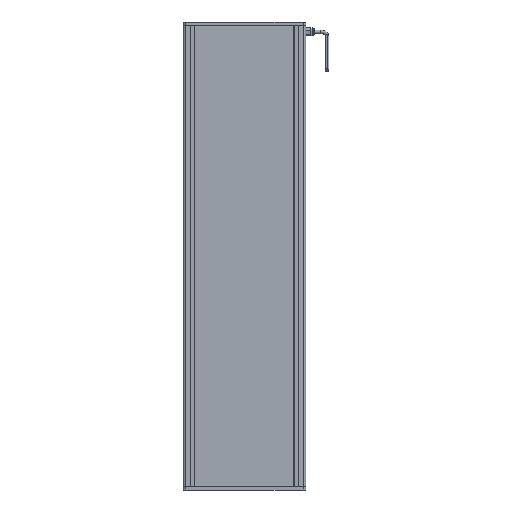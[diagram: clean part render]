
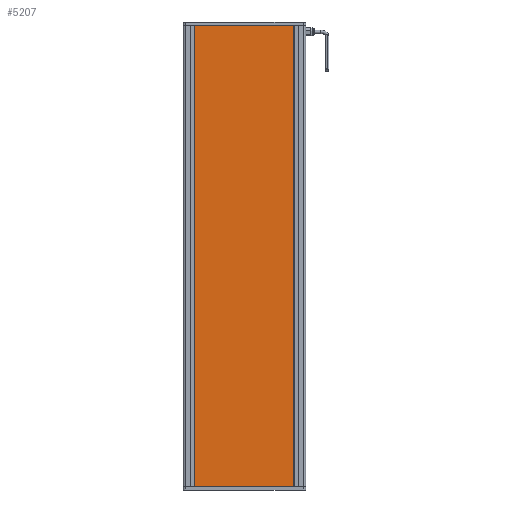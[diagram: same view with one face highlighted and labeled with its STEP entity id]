
A CAD part, front view. The second image highlights one B-rep face of the part: STEP entity #5207.
In plain terms, the highlighted planar face has unit normal (0, -1, 0) as drawn and (0, 0, 1) by its records, which use the part's own axes.
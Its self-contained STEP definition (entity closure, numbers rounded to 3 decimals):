
#154 = DIRECTION ( 'NONE',  ( 0., -1., 0. ) ) ;
#431 = ORIENTED_EDGE ( 'NONE', *, *, #15057, .T. ) ;
#1116 = VERTEX_POINT ( 'NONE', #15211 ) ;
#2932 = CARTESIAN_POINT ( 'NONE',  ( -159., 0., 0. ) ) ;
#3321 = VERTEX_POINT ( 'NONE', #16052 ) ;
#4097 = LINE ( 'NONE', #14987, #15147 ) ;
#4207 = EDGE_CURVE ( 'NONE', #7543, #1116, #15069, .T. ) ;
#4409 = VERTEX_POINT ( 'NONE', #7212 ) ;
#4610 = LINE ( 'NONE', #10242, #7158 ) ;
#5096 = ORIENTED_EDGE ( 'NONE', *, *, #9997, .T. ) ;
#5207 = ADVANCED_FACE ( 'NONE', ( #14961 ), #16565, .F. ) ;
#5304 = LINE ( 'NONE', #11007, #12458 ) ;
#5584 = DIRECTION ( 'NONE',  ( -1., 0., 0. ) ) ;
#5808 = VECTOR ( 'NONE', #154, 1000. ) ;
#7158 = VECTOR ( 'NONE', #15594, 1000. ) ;
#7205 = CARTESIAN_POINT ( 'NONE',  ( -159., 0., 0. ) ) ;
#7212 = CARTESIAN_POINT ( 'NONE',  ( -9., 0., 0. ) ) ;
#7543 = VERTEX_POINT ( 'NONE', #7205 ) ;
#7667 = EDGE_CURVE ( 'NONE', #4409, #7543, #4610, .T. ) ;
#9456 = DIRECTION ( 'NONE',  ( 0., 1., 0. ) ) ;
#9997 = EDGE_CURVE ( 'NONE', #3321, #4409, #4097, .T. ) ;
#10242 = CARTESIAN_POINT ( 'NONE',  ( -9., 0., 0. ) ) ;
#10642 = ORIENTED_EDGE ( 'NONE', *, *, #7667, .T. ) ;
#11007 = CARTESIAN_POINT ( 'NONE',  ( -9., -700., 0. ) ) ;
#12458 = VECTOR ( 'NONE', #13617, 1000. ) ;
#13064 = ORIENTED_EDGE ( 'NONE', *, *, #4207, .T. ) ;
#13617 = DIRECTION ( 'NONE',  ( 1., 0., 0. ) ) ;
#14286 = AXIS2_PLACEMENT_3D ( 'NONE', #15051, #16301, #5584 ) ;
#14828 = EDGE_LOOP ( 'NONE', ( #5096, #10642, #13064, #431 ) ) ;
#14961 = FACE_OUTER_BOUND ( 'NONE', #14828, .T. ) ;
#14987 = CARTESIAN_POINT ( 'NONE',  ( -9., 0., 0. ) ) ;
#15051 = CARTESIAN_POINT ( 'NONE',  ( 0., 0., 0. ) ) ;
#15057 = EDGE_CURVE ( 'NONE', #1116, #3321, #5304, .T. ) ;
#15069 = LINE ( 'NONE', #2932, #5808 ) ;
#15147 = VECTOR ( 'NONE', #9456, 1000. ) ;
#15211 = CARTESIAN_POINT ( 'NONE',  ( -159., -700., 0. ) ) ;
#15594 = DIRECTION ( 'NONE',  ( -1., 0., 0. ) ) ;
#16052 = CARTESIAN_POINT ( 'NONE',  ( -9., -700., 0. ) ) ;
#16301 = DIRECTION ( 'NONE',  ( 0., 0., -1. ) ) ;
#16565 = PLANE ( 'NONE',  #14286 ) ;
